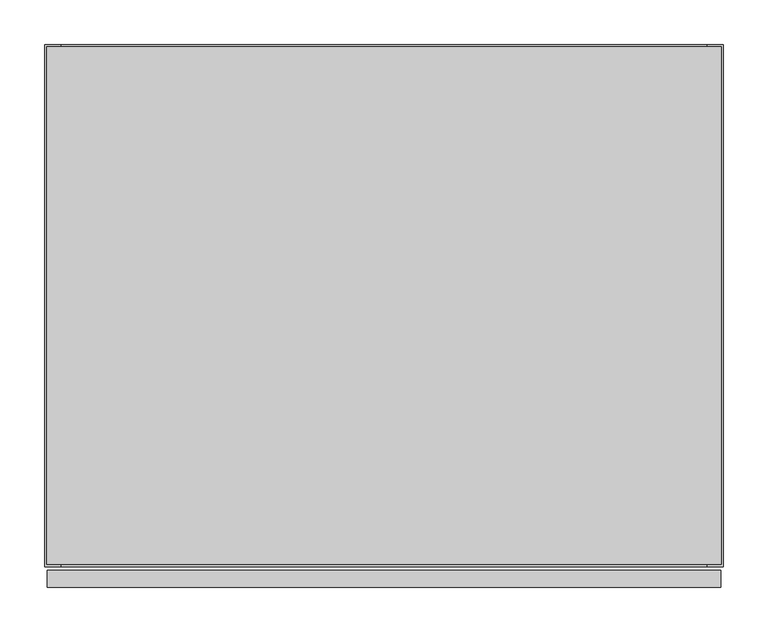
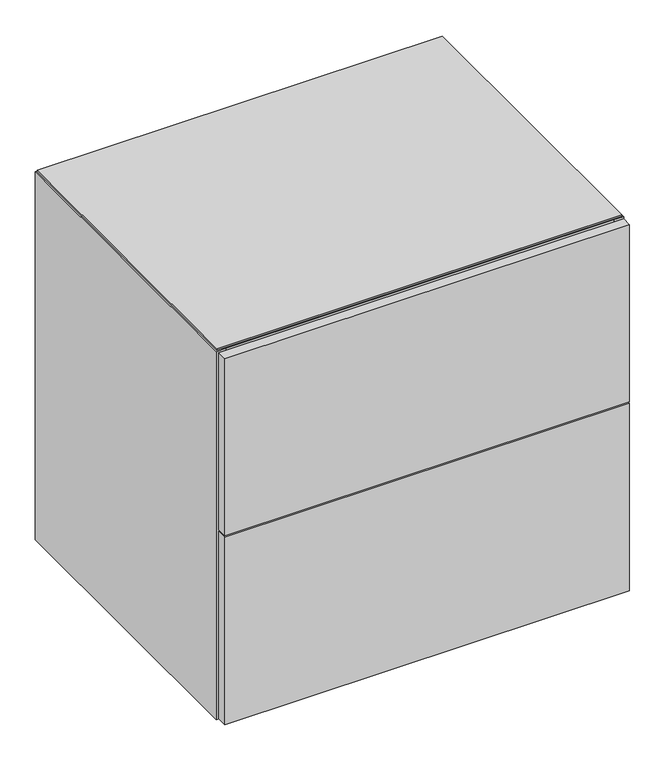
"""IFC4 building model written with IfcOpenShell, lengths in millimetres: furniture geometry, Geiger_GeigerOneCasegoods_LowStorage2Files : TFL 30Wx24Dx28.75H."""

from ifc_helpers import new_model, si_unit, point, frame, origin, place, context, project, spatial, polyline, circle_curve, ellipse_curve, trimmed, outline, extrude, source, transform, mapped, element, save
from ifc_brep_helpers import plane_surface, cylinder_surface, revolved_surface, advanced_brep


def furniture_2ffb538e(model_context):
    return source(origin(), model_context, "Body", "SolidModel", [
        extrude(outline(polyline([(19.0, -19.5), (743.0, -19.5), (743.0, -586.4), (19.0, -586.4), (19.0, -19.5)])), frame((0.0, 0.0, 73.2), z_axis=(0.0, 0.0, 1.0), x_axis=(1.0, 0.0, 0.0)), (0.0, 0.0, 1.0), 19.5072),
        extrude(outline(polyline([(3.0, -590.4), (759.0, -590.4), (759.0, -609.6), (3.0, -609.6), (3.0, -590.4)])), frame((0.0, 0.0, 15.7), z_axis=(0.0, 0.0, 1.0), x_axis=(1.0, 0.0, 0.0)), (0.0, 0.0, 1.0), 370.0),
        extrude(outline(polyline([(3.0, -590.4), (759.0, -590.4), (759.0, -609.6), (3.0, -609.6), (3.0, -590.4)])), frame((0.0, 0.0, 388.7), z_axis=(0.0, 0.0, 1.0), x_axis=(1.0, 0.0, 0.0)), (0.0, 0.0, 1.0), 350.0),
        extrude(outline(polyline([(19.0, -19.5), (743.0, -19.5), (743.0, -566.9), (19.0, -566.9), (19.0, -19.5)])), frame((0.0, 0.0, 12.7), z_axis=(0.0, 0.0, 1.0), x_axis=(1.0, 0.0, 0.0)), (0.0, 0.0, 1.0), 19.5),
        extrude(outline(polyline([(759.46, -2.54), (759.46, -583.86), (2.54, -583.86), (2.54, -2.54), (759.46, -2.54)])), frame((0.0, 0.0, 739.5), z_axis=(0.0, 0.0, 1.0), x_axis=(1.0, 0.0, 0.0)), (0.0, 0.0, 1.0), 3.2766),
        extrude(outline(polyline([(19.0, -95.7), (743.0, -95.7), (743.0, -586.4), (19.0, -586.4), (19.0, -95.7)])), frame((0.0, 0.0, 720.0), z_axis=(0.0, 0.0, 1.0), x_axis=(1.0, 0.0, 0.0)), (0.0, 0.0, 1.0), 19.5),
        extrude(outline(polyline([(743.0, -19.5), (19.0, -19.5), (19.0, 0.0), (743.0, 0.0), (743.0, -19.5)])), frame((0.0, 0.0, 12.7), z_axis=(0.0, 0.0, 1.0), x_axis=(1.0, 0.0, 0.0)), (0.0, 0.0, 1.0), 726.8),
        extrude(outline(polyline([(19.0, -566.9), (743.0, -566.9), (743.0, -586.4), (19.0, -586.4), (19.0, -566.9)])), frame((0.0, 0.0, 12.7), z_axis=(0.0, 0.0, 1.0), x_axis=(1.0, 0.0, 0.0)), (0.0, 0.0, 1.0), 60.5),
        extrude(outline(polyline([(19.0, -586.4), (0.0, -586.4), (0.0, -0.5), (19.0, -0.5), (19.0, -586.4)])), frame((0.0, 0.0, 12.7), z_axis=(0.0, 0.0, 1.0), x_axis=(1.0, 0.0, 0.0)), (0.0, 0.0, 1.0), 726.8),
        extrude(outline(polyline([(762.0, -586.4), (743.0, -586.4), (743.0, -0.5), (762.0, -0.5), (762.0, -586.4)])), frame((0.0, 0.0, 12.7), z_axis=(0.0, 0.0, 1.0), x_axis=(1.0, 0.0, 0.0)), (0.0, 0.0, 1.0), 726.8),
        advanced_brep(
        [(94.0575663, -528.9165105, 0.0), (71.9424337, -528.9165105, 0.0), (83.0, -528.9165105, 0.0), (94.0575663, -528.9165105, 9.5), (71.9424337, -528.9165105, 9.5), (87.066455, -528.9165105, 9.5), (78.933545, -528.9165105, 9.5), (87.066455, -528.9165105, 12.7), (78.933545, -528.9165105, 12.7), (83.0, -528.9165105, 12.7)],
        [
            (0, 1, circle_curve(frame((83.0, -528.9165105, 0.0), z_axis=(0.0, 0.0, -1.0), x_axis=(-1.0, 0.0, 0.0)), 11.0575663)),
            (1, 2),
            (2, 0),
            (1, 0, circle_curve(frame((83.0, -528.9165105, 0.0), z_axis=(0.0, 0.0, -1.0), x_axis=(-1.0, 0.0, 0.0)), 11.0575663)),
            (0, 3, circle_curve(frame((94.0575663, -528.9165105, 4.75), z_axis=(0.0, -1.0, 0.0), x_axis=(1.0, 0.0, 0.0)), 4.75)),
            (3, 4, circle_curve(frame((83.0, -528.9165105, 9.5), z_axis=(0.0, 0.0, -1.0), x_axis=(-1.0, 0.0, 0.0)), 11.0575663)),
            (4, 1, circle_curve(frame((71.9424337, -528.9165105, 4.75), z_axis=(0.0, -1.0, 0.0), x_axis=(-1.0, 0.0, 0.0)), 4.75)),
            (4, 3, circle_curve(frame((83.0, -528.9165105, 9.5), z_axis=(0.0, 0.0, -1.0), x_axis=(-1.0, 0.0, 0.0)), 11.0575663)),
            (3, 5),
            (5, 6, circle_curve(frame((83.0, -528.9165105, 9.5), z_axis=(0.0, 0.0, -1.0), x_axis=(-1.0, 0.0, 0.0)), 4.066455)),
            (6, 4),
            (6, 5, circle_curve(frame((83.0, -528.9165105, 9.5), z_axis=(0.0, 0.0, -1.0), x_axis=(-1.0, 0.0, 0.0)), 4.066455)),
            (5, 7),
            (7, 8, circle_curve(frame((83.0, -528.9165105, 12.7), z_axis=(0.0, 0.0, -1.0), x_axis=(-1.0, 0.0, 0.0)), 4.066455)),
            (8, 6),
            (8, 7, circle_curve(frame((83.0, -528.9165105, 12.7), z_axis=(0.0, 0.0, -1.0), x_axis=(-1.0, 0.0, 0.0)), 4.066455)),
            (7, 9),
            (9, 8),
        ],
        [
            plane_surface(frame((83.0, -528.9165105, 0.0), z_axis=(0.0, 0.0, -1.0), x_axis=(-1.0, 0.0, 0.0))),
            revolved_surface(trimmed(ellipse_curve(frame((71.9424337, -528.9165105, 4.75), z_axis=(0.0, 1.0, 0.0), x_axis=(-1.0, 0.0, 0.0)), 4.75, 4.75), [point((71.9424337, -528.9165105, 0.0))], [point((71.9424337, -528.9165105, 9.5))], True, "CARTESIAN"), (83.0, -528.9165105, 0.0), (0.0, 0.0, 1.0)),
            plane_surface(frame((83.0, -528.9165105, 9.5), z_axis=(0.0, 0.0, 1.0), x_axis=(-1.0, 0.0, 0.0))),
            cylinder_surface(frame((83.0, -528.9165105, 0.0), z_axis=(0.0, 0.0, 1.0), x_axis=(-1.0, 0.0, 0.0)), 4.066455),
            plane_surface(frame((83.0, -528.9165105, 12.7), z_axis=(0.0, 0.0, 1.0), x_axis=(-1.0, 0.0, 0.0))),
        ],
        [
            (0, [[1, 2, 3]]),
            (0, [[-2, 4, -3]]),
            (1, [[-1, 5, 6, 7]]),
            (1, [[-4, -7, 8, -5]]),
            (2, [[-6, 9, 10, 11]]),
            (2, [[-8, -11, 12, -9]]),
            (3, [[-10, 13, 14, 15]]),
            (3, [[-12, -15, 16, -13]]),
            (4, [[-14, 17, 18]]),
            (4, [[-16, -18, -17]]),
        ],
    ),
        advanced_brep(
        [(94.0575663, -127.0, 0.0), (71.9424337, -127.0, 0.0), (83.0, -127.0, 0.0), (94.0575663, -127.0, 9.5), (71.9424337, -127.0, 9.5), (87.066455, -127.0, 9.5), (78.933545, -127.0, 9.5), (87.066455, -127.0, 12.7), (78.933545, -127.0, 12.7), (83.0, -127.0, 12.7)],
        [
            (0, 1, circle_curve(frame((83.0, -127.0, 0.0), z_axis=(0.0, 0.0, -1.0), x_axis=(-1.0, 0.0, 0.0)), 11.0575663)),
            (1, 2),
            (2, 0),
            (1, 0, circle_curve(frame((83.0, -127.0, 0.0), z_axis=(0.0, 0.0, -1.0), x_axis=(-1.0, 0.0, 0.0)), 11.0575663)),
            (0, 3, circle_curve(frame((94.0575663, -127.0, 4.75), z_axis=(0.0, -1.0, 0.0), x_axis=(1.0, 0.0, 0.0)), 4.75)),
            (3, 4, circle_curve(frame((83.0, -127.0, 9.5), z_axis=(0.0, 0.0, -1.0), x_axis=(-1.0, 0.0, 0.0)), 11.0575663)),
            (4, 1, circle_curve(frame((71.9424337, -127.0, 4.75), z_axis=(0.0, -1.0, 0.0), x_axis=(-1.0, 0.0, 0.0)), 4.75)),
            (4, 3, circle_curve(frame((83.0, -127.0, 9.5), z_axis=(0.0, 0.0, -1.0), x_axis=(-1.0, 0.0, 0.0)), 11.0575663)),
            (3, 5),
            (5, 6, circle_curve(frame((83.0, -127.0, 9.5), z_axis=(0.0, 0.0, -1.0), x_axis=(-1.0, 0.0, 0.0)), 4.066455)),
            (6, 4),
            (6, 5, circle_curve(frame((83.0, -127.0, 9.5), z_axis=(0.0, 0.0, -1.0), x_axis=(-1.0, 0.0, 0.0)), 4.066455)),
            (5, 7),
            (7, 8, circle_curve(frame((83.0, -127.0, 12.7), z_axis=(0.0, 0.0, -1.0), x_axis=(-1.0, 0.0, 0.0)), 4.066455)),
            (8, 6),
            (8, 7, circle_curve(frame((83.0, -127.0, 12.7), z_axis=(0.0, 0.0, -1.0), x_axis=(-1.0, 0.0, 0.0)), 4.066455)),
            (7, 9),
            (9, 8),
        ],
        [
            plane_surface(frame((83.0, -127.0, 0.0), z_axis=(0.0, 0.0, -1.0), x_axis=(-1.0, 0.0, 0.0))),
            revolved_surface(trimmed(ellipse_curve(frame((71.9424337, -127.0, 4.75), z_axis=(0.0, 1.0, 0.0), x_axis=(-1.0, 0.0, 0.0)), 4.75, 4.75), [point((71.9424337, -127.0, 0.0))], [point((71.9424337, -127.0, 9.5))], True, "CARTESIAN"), (83.0, -127.0, 0.0), (0.0, 0.0, 1.0)),
            plane_surface(frame((83.0, -127.0, 9.5), z_axis=(0.0, 0.0, 1.0), x_axis=(-1.0, 0.0, 0.0))),
            cylinder_surface(frame((83.0, -127.0, 0.0), z_axis=(0.0, 0.0, 1.0), x_axis=(-1.0, 0.0, 0.0)), 4.066455),
            plane_surface(frame((83.0, -127.0, 12.7), z_axis=(0.0, 0.0, 1.0), x_axis=(-1.0, 0.0, 0.0))),
        ],
        [
            (0, [[1, 2, 3]]),
            (0, [[-2, 4, -3]]),
            (1, [[-1, 5, 6, 7]]),
            (1, [[-4, -7, 8, -5]]),
            (2, [[-6, 9, 10, 11]]),
            (2, [[-8, -11, 12, -9]]),
            (3, [[-10, 13, 14, 15]]),
            (3, [[-12, -15, 16, -13]]),
            (4, [[-14, 17, 18]]),
            (4, [[-16, -18, -17]]),
        ],
    ),
        advanced_brep(
        [(679.0, -528.9165105, 0.0), (690.0575663, -528.9165105, 0.0), (667.9424337, -528.9165105, 0.0), (690.0575663, -528.9165105, 9.5), (667.9424337, -528.9165105, 9.5), (683.066455, -528.9165105, 9.5), (674.933545, -528.9165105, 9.5), (683.066455, -528.9165105, 12.7), (674.933545, -528.9165105, 12.7), (679.0, -528.9165105, 12.7)],
        [
            (0, 1),
            (1, 2, circle_curve(frame((679.0, -528.9165105, 0.0), z_axis=(0.0, 0.0, -1.0), x_axis=(1.0, 0.0, 0.0)), 11.0575663)),
            (2, 0),
            (2, 1, circle_curve(frame((679.0, -528.9165105, 0.0), z_axis=(0.0, 0.0, -1.0), x_axis=(1.0, 0.0, 0.0)), 11.0575663)),
            (1, 3, circle_curve(frame((690.0575663, -528.9165105, 4.75), z_axis=(0.0, -1.0, 0.0), x_axis=(-1.0, 0.0, 0.0)), 4.75)),
            (3, 4, circle_curve(frame((679.0, -528.9165105, 9.5), z_axis=(0.0, 0.0, -1.0), x_axis=(1.0, 0.0, 0.0)), 11.0575663)),
            (4, 2, circle_curve(frame((667.9424337, -528.9165105, 4.75), z_axis=(0.0, -1.0, 0.0), x_axis=(1.0, 0.0, 0.0)), 4.75)),
            (4, 3, circle_curve(frame((679.0, -528.9165105, 9.5), z_axis=(0.0, 0.0, -1.0), x_axis=(1.0, 0.0, 0.0)), 11.0575663)),
            (3, 5),
            (5, 6, circle_curve(frame((679.0, -528.9165105, 9.5), z_axis=(0.0, 0.0, -1.0), x_axis=(1.0, 0.0, 0.0)), 4.066455)),
            (6, 4),
            (6, 5, circle_curve(frame((679.0, -528.9165105, 9.5), z_axis=(0.0, 0.0, -1.0), x_axis=(1.0, 0.0, 0.0)), 4.066455)),
            (5, 7),
            (7, 8, circle_curve(frame((679.0, -528.9165105, 12.7), z_axis=(0.0, 0.0, -1.0), x_axis=(1.0, 0.0, 0.0)), 4.066455)),
            (8, 6),
            (8, 7, circle_curve(frame((679.0, -528.9165105, 12.7), z_axis=(0.0, 0.0, -1.0), x_axis=(1.0, 0.0, 0.0)), 4.066455)),
            (7, 9),
            (9, 8),
        ],
        [
            plane_surface(frame((679.0, -528.9165105, 0.0), z_axis=(0.0, 0.0, -1.0), x_axis=(1.0, 0.0, 0.0))),
            revolved_surface(trimmed(ellipse_curve(frame((690.0575663, -528.9165105, 4.75), z_axis=(0.0, 1.0, 0.0), x_axis=(-1.0, 0.0, 0.0)), 4.75, 4.75), [point((690.0575663, -528.9165105, 9.5))], [point((690.0575663, -528.9165105, 0.0))], True, "CARTESIAN"), (679.0, -528.9165105, 0.0), (0.0, 0.0, -1.0)),
            plane_surface(frame((679.0, -528.9165105, 9.5), z_axis=(0.0, 0.0, 1.0), x_axis=(1.0, 0.0, 0.0))),
            cylinder_surface(frame((679.0, -528.9165105, 0.0), z_axis=(0.0, 0.0, -1.0), x_axis=(1.0, 0.0, 0.0)), 4.066455),
            plane_surface(frame((679.0, -528.9165105, 12.7), z_axis=(0.0, 0.0, 1.0), x_axis=(1.0, 0.0, 0.0))),
        ],
        [
            (0, [[1, 2, 3]]),
            (0, [[-1, -3, 4]]),
            (1, [[-2, 5, 6, 7]]),
            (1, [[-4, -7, 8, -5]]),
            (2, [[-6, 9, 10, 11]]),
            (2, [[-8, -11, 12, -9]]),
            (3, [[-10, 13, 14, 15]]),
            (3, [[-12, -15, 16, -13]]),
            (4, [[-14, 17, 18]]),
            (4, [[-16, -18, -17]]),
        ],
    ),
        advanced_brep(
        [(679.0, -127.0, 0.0), (690.0575663, -127.0, 0.0), (667.9424337, -127.0, 0.0), (690.0575663, -127.0, 9.5), (667.9424337, -127.0, 9.5), (683.066455, -127.0, 9.5), (674.933545, -127.0, 9.5), (683.066455, -127.0, 12.7), (674.933545, -127.0, 12.7), (679.0, -127.0, 12.7)],
        [
            (0, 1),
            (1, 2, circle_curve(frame((679.0, -127.0, 0.0), z_axis=(0.0, 0.0, -1.0), x_axis=(1.0, 0.0, 0.0)), 11.0575663)),
            (2, 0),
            (2, 1, circle_curve(frame((679.0, -127.0, 0.0), z_axis=(0.0, 0.0, -1.0), x_axis=(1.0, 0.0, 0.0)), 11.0575663)),
            (1, 3, circle_curve(frame((690.0575663, -127.0, 4.75), z_axis=(0.0, -1.0, 0.0), x_axis=(-1.0, 0.0, 0.0)), 4.75)),
            (3, 4, circle_curve(frame((679.0, -127.0, 9.5), z_axis=(0.0, 0.0, -1.0), x_axis=(1.0, 0.0, 0.0)), 11.0575663)),
            (4, 2, circle_curve(frame((667.9424337, -127.0, 4.75), z_axis=(0.0, -1.0, 0.0), x_axis=(1.0, 0.0, 0.0)), 4.75)),
            (4, 3, circle_curve(frame((679.0, -127.0, 9.5), z_axis=(0.0, 0.0, -1.0), x_axis=(1.0, 0.0, 0.0)), 11.0575663)),
            (3, 5),
            (5, 6, circle_curve(frame((679.0, -127.0, 9.5), z_axis=(0.0, 0.0, -1.0), x_axis=(1.0, 0.0, 0.0)), 4.066455)),
            (6, 4),
            (6, 5, circle_curve(frame((679.0, -127.0, 9.5), z_axis=(0.0, 0.0, -1.0), x_axis=(1.0, 0.0, 0.0)), 4.066455)),
            (5, 7),
            (7, 8, circle_curve(frame((679.0, -127.0, 12.7), z_axis=(0.0, 0.0, -1.0), x_axis=(1.0, 0.0, 0.0)), 4.066455)),
            (8, 6),
            (8, 7, circle_curve(frame((679.0, -127.0, 12.7), z_axis=(0.0, 0.0, -1.0), x_axis=(1.0, 0.0, 0.0)), 4.066455)),
            (7, 9),
            (9, 8),
        ],
        [
            plane_surface(frame((679.0, -127.0, 0.0), z_axis=(0.0, 0.0, -1.0), x_axis=(1.0, 0.0, 0.0))),
            revolved_surface(trimmed(ellipse_curve(frame((690.0575663, -127.0, 4.75), z_axis=(0.0, 1.0, 0.0), x_axis=(-1.0, 0.0, 0.0)), 4.75, 4.75), [point((690.0575663, -127.0, 9.5))], [point((690.0575663, -127.0, 0.0))], True, "CARTESIAN"), (679.0, -127.0, 0.0), (0.0, 0.0, -1.0)),
            plane_surface(frame((679.0, -127.0, 9.5), z_axis=(0.0, 0.0, 1.0), x_axis=(1.0, 0.0, 0.0))),
            cylinder_surface(frame((679.0, -127.0, 0.0), z_axis=(0.0, 0.0, -1.0), x_axis=(1.0, 0.0, 0.0)), 4.066455),
            plane_surface(frame((679.0, -127.0, 12.7), z_axis=(0.0, 0.0, 1.0), x_axis=(1.0, 0.0, 0.0))),
        ],
        [
            (0, [[1, 2, 3]]),
            (0, [[-1, -3, 4]]),
            (1, [[-2, 5, 6, 7]]),
            (1, [[-4, -7, 8, -5]]),
            (2, [[-6, 9, 10, 11]]),
            (2, [[-8, -11, 12, -9]]),
            (3, [[-10, 13, 14, 15]]),
            (3, [[-12, -15, 16, -13]]),
            (4, [[-14, 17, 18]]),
            (4, [[-16, -18, -17]]),
        ],
    ),
    ])


if __name__ == "__main__":
    model = new_model("IFC4")
    model_context = context("Model", 3, world=origin())
    ifc_project = project(units=[si_unit("LENGTHUNIT", "METRE", prefix="MILLI")], contexts=[model_context])
    site = spatial("IfcSite", under=ifc_project)
    building = spatial("IfcBuilding", under=site)
    placement = place(None, origin())
    furniture_shape = furniture_2ffb538e(model_context)
    element("IfcFurniture", 1, ObjectType="Geiger_GeigerOneCasegoods_LowStorage2Files : TFL 30Wx24Dx28.75H", at=placement, inside=building, context=model_context, shape_type="MappedRepresentation", body=[
        mapped(furniture_shape, transform((0.0, 0.0, 0.0), x_axis=(1.0, 0.0, 0.0), y_axis=(0.0, 1.0, 0.0), z_axis=(0.0, 0.0, 1.0))),
    ])
    save(model, "model.ifc")
